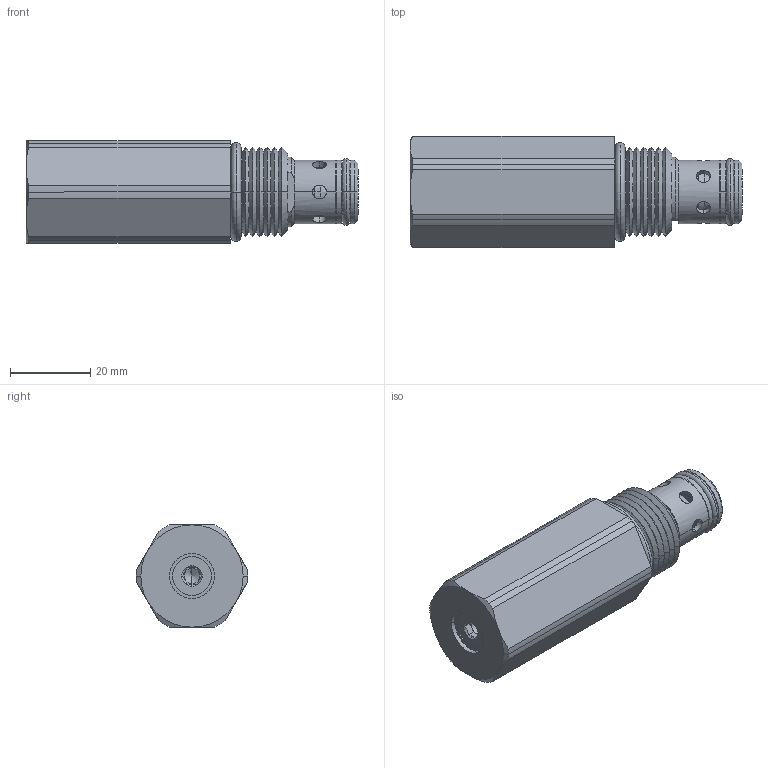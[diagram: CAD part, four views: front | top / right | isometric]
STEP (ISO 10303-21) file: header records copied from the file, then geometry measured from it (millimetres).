
FILE_DESCRIPTION((''),'2;1');
FILE_NAME('U:\Solid model CD\Solid model full\Mechanical\STEP\DERWA0I-3D Full.stp','2008-07-28T16:22:11',('Dan'),(''),'Autodesk Inventor 9','Autodesk Inventor 9','');
FILE_SCHEMA(('AUTOMOTIVE_DESIGN { 1 0 10303 214 1 1 1 1 }'));
Length unit declared in the file: inch
Products named in the file (5): DERWA0I-3D Full; DERWA0I-3D Full1; DERWA0I-3D Full2; DERWA0I-3D Full3; DERWA0I-3D Full4
Assembly tree (4 placements, depth 2):
  DERWA0I-3D Full
    DERWA0I-3D Full1
    DERWA0I-3D Full2
    DERWA0I-3D Full3
    DERWA0I-3D Full4
Bounding box: 82.5 x 27.69 x 25.4 mm (x, y, z)
Volume: 35806.3 mm3; surface area: 9394.9 mm2
Topology: 4 solids, 4 shells, 139 faces, 339 edges, 205 vertices
Faces by surface type: cylinder 48, cone 42, plane 27, bspline 18, torus 4
Entity records: 5026 total; most frequent: CARTESIAN_POINT 1678, DIRECTION 704, ORIENTED_EDGE 670, EDGE_CURVE 335, AXIS2_PLACEMENT_3D 293, VERTEX_POINT 205, CIRCLE 163, EDGE_LOOP 162
